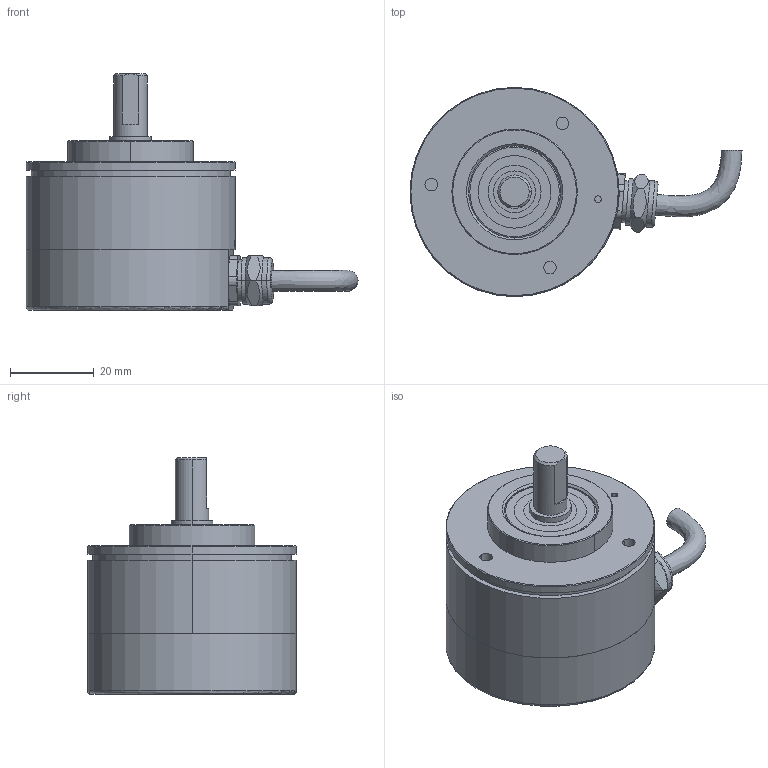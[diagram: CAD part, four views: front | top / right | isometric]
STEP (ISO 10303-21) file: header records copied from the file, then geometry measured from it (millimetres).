
FILE_DESCRIPTION(/* description */ (''),/* implementation_level */ '2;1');
FILE_NAME(/* name */ '编码器 IP68 BRT50-8mm_stp.stp',/* time_stamp */ '2022-04-21T18:40:34+08:00',/* author */ (''),/* organization */ (''),/* preprocessor_version */ 'ST-DEVELOPER v16.7',/* originating_system */ 'SIEMENS PLM Software NX 12.0',/* authorisation */ '');
FILE_SCHEMA (('AUTOMOTIVE_DESIGN { 1 0 10303 214 3 1 1 1 }'));
Length unit declared in the file: millimetre
Products named in the file (1): Leno56F4E573op0e
Bounding box: 79.37 x 50 x 56.5 mm (x, y, z)
Volume: 44518.7 mm3; surface area: 27891.8 mm2
Topology: 10 solids, 10 shells, 288 faces, 809 edges, 503 vertices
Faces by surface type: cylinder 131, plane 73, torus 47, sphere 24, cone 12, bspline 1
Full cylindrical faces by diameter (mm): 12.667 x1, 17.333 x1
Entity records: 21158 total; most frequent: CARTESIAN_POINT 13847, DIRECTION 1525, ORIENTED_EDGE 1516, EDGE_CURVE 758, AXIS2_PLACEMENT_3D 676, VERTEX_POINT 503, CIRCLE 388, EDGE_LOOP 355
